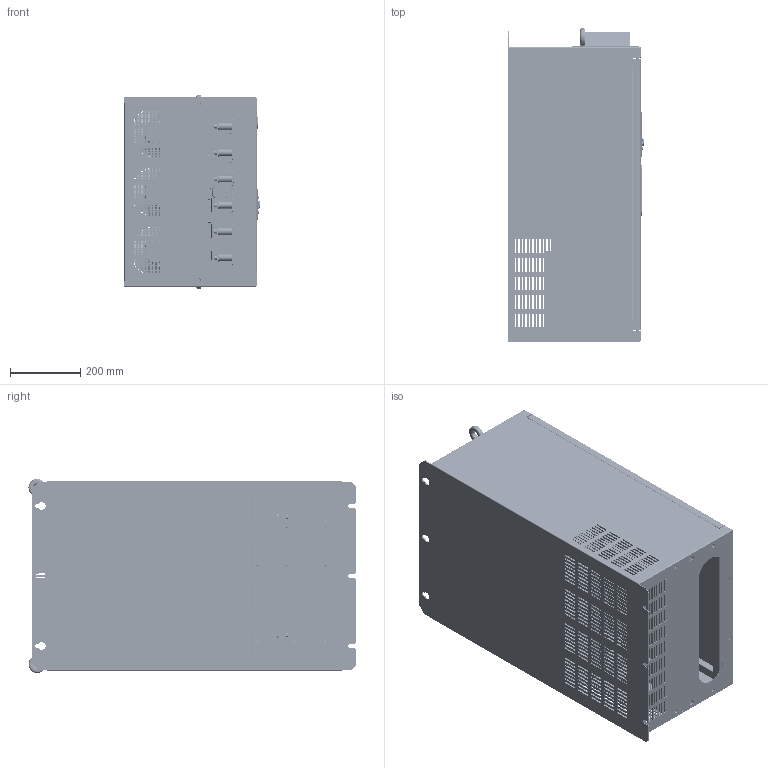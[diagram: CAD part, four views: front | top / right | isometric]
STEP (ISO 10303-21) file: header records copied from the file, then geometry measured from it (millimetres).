
FILE_DESCRIPTION(('STEP AP203'), '1');
FILE_NAME('Ïðåîáðàçîâàòåëü ÷àñòîòû _ LCI-G250_P280-4', '', ('UNSPECIFIED'), ('UNSPECIFIED'), 'C3D Converter', 'C3D Toolkit', '');
FILE_SCHEMA(('CONFIG_CONTROL_DESIGN'));
Length unit declared in the file: millimetre
Products named in the file (115): LCI-G200_P220-4; LCI-G200; S-M5-1; DIN 929; BSO-M3-10; S-M4-1; S-M6-1; LCI-G220; BSO-M3-12; LCI-G250 IP54; S-M8-1; LCI-G200 ; LCI-G250; BSO-M3-18; СБДINS LCI-KP-B; Панель управления; Панель управленния; BSO-M3-14; JYZ20-40; 0010-E-P01-A-01; BH-34R (DS1013-34R) (IDC-34MR); BH-10 (DS1013-10S) (IDC-10MS) H18; PBD2-24 (DS-1026-06 - 2x12); PLD-14 (13) (DS1021-2x7); PLS-3 (DS1021-1x3); MJC (DS1027-2 LB); KLS12-127S (RJ-45); HF33F; EMD 1.5-26-5.08-03; ГОСТ 17473-80 PH
Assembly tree (337 placements, depth 5):
  LCI-G200_P220-4
    LCI-G200
      LCI-G200
      S-M5-1  x6
      DIN 929  x4
    LCI-G200
      LCI-G200
      S-M5-1  x2
      BSO-M3-10  x16
    LCI-G200
      LCI-G200
        LCI-G200
        S-M4-1  x6
      (unnamed)  x3
    LCI-G200
      LCI-G200
      S-M6-1  x6
      S-M4-1  x23
    LCI-G200
      LCI-G200
      S-M4-1  x12
    LCI-G200  x2
    LCI-G200
      LCI-G200
      S-M5-1  x2
    LCI-G200  x2
    LCI-G220
    LCI-G200
      LCI-G200
      (unnamed)
      (unnamed)
      (unnamed)
        (unnamed)
        (unnamed)
        (unnamed)
      (unnamed)
    LCI-G200
      LCI-G200
        LCI-G200
        S-M4-1  x8
      (unnamed)
      (unnamed)  x4
    LCI-G200
      LCI-G200
      BSO-M3-12  x12
    LCI-G200
      LCI-G250 IP54
      S-M8-1  x12
    LCI-G200
      LCI-G250 IP54
      S-M8-1  x10
    (unnamed)
      (unnamed)
      (unnamed)
      (unnamed)
      (unnamed)
      (unnamed)
      (unnamed)
      (unnamed)
    LCI-G200  x2
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Bounding box: 390.2 x 933.9 x 553.99 mm (x, y, z)
Volume: 19235674.3 mm3; surface area: 14999626 mm2
Topology: 365 solids, 370 shells, 23465 faces, 62893 edges, 41127 vertices
Faces by surface type: plane 18592, cylinder 2168, extrusion 1658, cone 570, bspline 229, torus 198, sphere 50
Full cylindrical faces by diameter (mm): 0.89 x16, 1 x20, 1.2 x32, 1.57 x8, 2 x15, 2.2 x1, 2.4 x4, 2.459 x74, 2.5 x26, 2.6 x8, 3 x56, 3.242 x55, 3.4 x8, 3.5 x9, 4 x94, 4.134 x32, 4.2 x43, 4.5 x42, 4.917 x6, 5 x93, 5.38 x55, 5.4 x48, 6 x48, 6.2 x1, 6.38 x32, 6.647 x22, 7 x79, 7.8 x1, 7.9 x55, 8 x94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
Entity records: 449544 total; most frequent: CARTESIAN_POINT 97203, ORIENTED_EDGE 62934, DIRECTION 53323, EDGE_CURVE 31473, VECTOR 26403, LINE 24745, VERTEX_POINT 20848, EDGE_LOOP 15382
